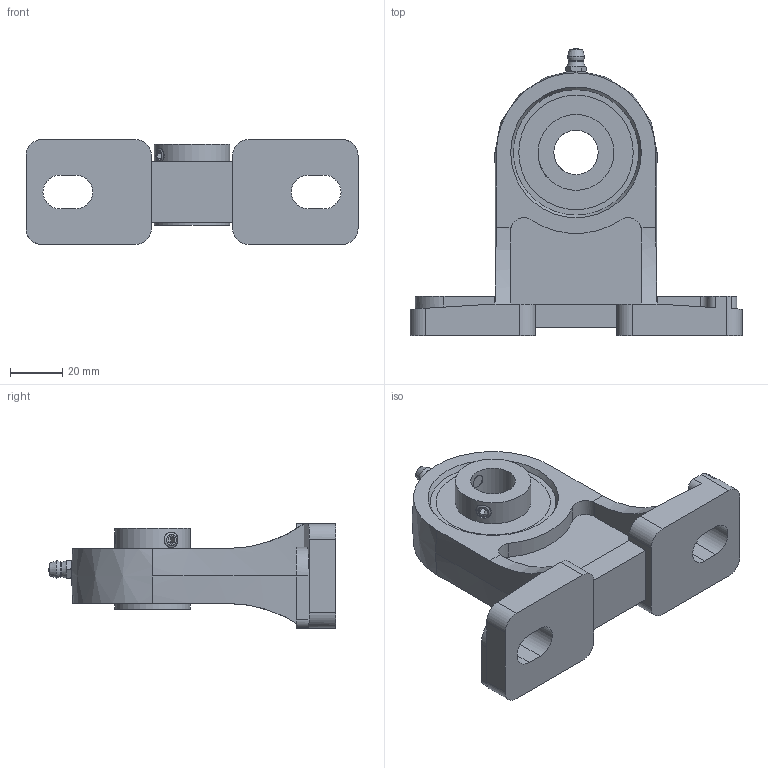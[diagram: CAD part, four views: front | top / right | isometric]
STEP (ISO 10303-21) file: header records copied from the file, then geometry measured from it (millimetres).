
FILE_DESCRIPTION((''),'2;1');
FILE_NAME('\\Ts-tgl068\j-cad-d-base\00.3DCADデータ作成フォルダ\01.ピロー形\UCPH200\UCPH203.stp','2014-04-18T08:29:55',('btec_1106_2'),(''),'Autodesk Inventor 2012','Autodesk Inventor 2012','');
FILE_SCHEMA(('AUTOMOTIVE_DESIGN { 1 0 10303 214 1 1 1 1 }'));
Length unit declared in the file: millimetre
Products named in the file (4): UCPH200; PH [番手=204 ul]; シリーズUC [番手=203 ul]; GU1
Assembly tree (3 placements, depth 2):
  UCPH200
    PH [番手=204 ul]
    シリーズUC [番手=203 ul]
    GU1
Bounding box: 127 x 109.79 x 40 mm (x, y, z)
Volume: 132719.2 mm3; surface area: 38725.5 mm2
Topology: 3 solids, 3 shells, 145 faces, 359 edges, 230 vertices
Faces by surface type: plane 76, cylinder 41, cone 17, bspline 5, sphere 4, torus 2
Full cylindrical faces by diameter (mm): 5.359 x1, 6 x2, 6.35 x1, 17 x1, 29 x2
Entity records: 4578 total; most frequent: CARTESIAN_POINT 1122, DIRECTION 684, ORIENTED_EDGE 670, EDGE_CURVE 335, AXIS2_PLACEMENT_3D 252, VERTEX_POINT 225, EDGE_LOOP 184, VECTOR 180
